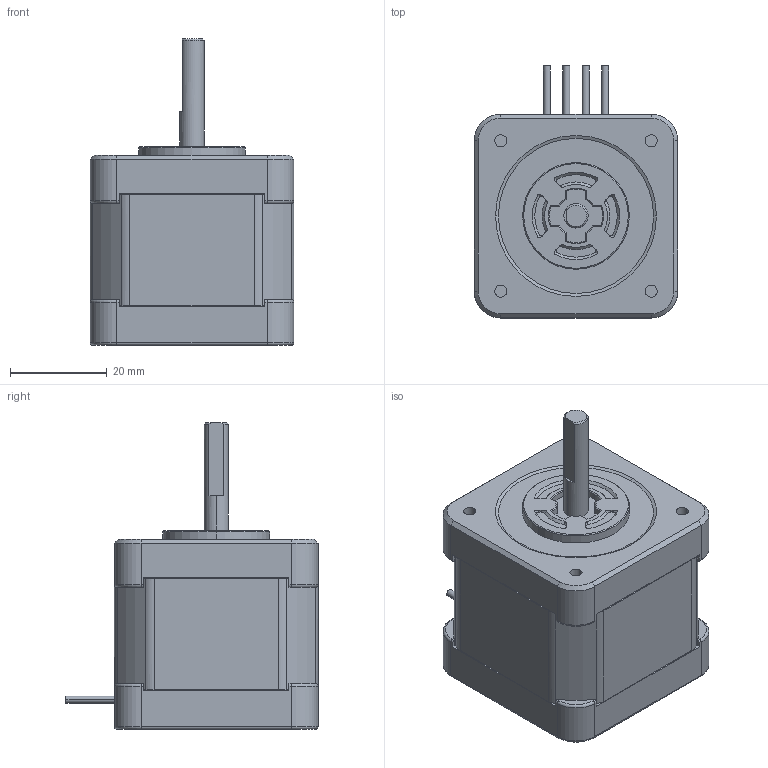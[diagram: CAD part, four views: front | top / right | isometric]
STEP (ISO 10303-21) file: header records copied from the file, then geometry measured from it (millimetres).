
FILE_DESCRIPTION (( 'STEP AP203' ), '1' );
FILE_NAME ('SH1422-5041.STEP', '2012-10-19T07:22:12', ( 'sanyodenki-admin' ), ( '' ), 'SwSTEP 2.0', 'SolidWorks 2011', '' );
FILE_SCHEMA (( 'CONFIG_CONTROL_DESIGN' ));
Length unit declared in the file: millimetre
Products named in the file (1): SH1422-5041
Bounding box: 42 x 52 x 63.2 mm (x, y, z)
Volume: 67231.2 mm3; surface area: 11355.6 mm2
Topology: 1 solids, 1 shells, 339 faces, 836 edges, 514 vertices
Faces by surface type: plane 151, cylinder 103, cone 55, bspline 18, torus 12
Entity records: 10428 total; most frequent: CARTESIAN_POINT 2426, ORIENTED_EDGE 1668, DIRECTION 1657, EDGE_CURVE 834, AXIS2_PLACEMENT_3D 609, VERTEX_POINT 514, VECTOR 439, LINE 439
